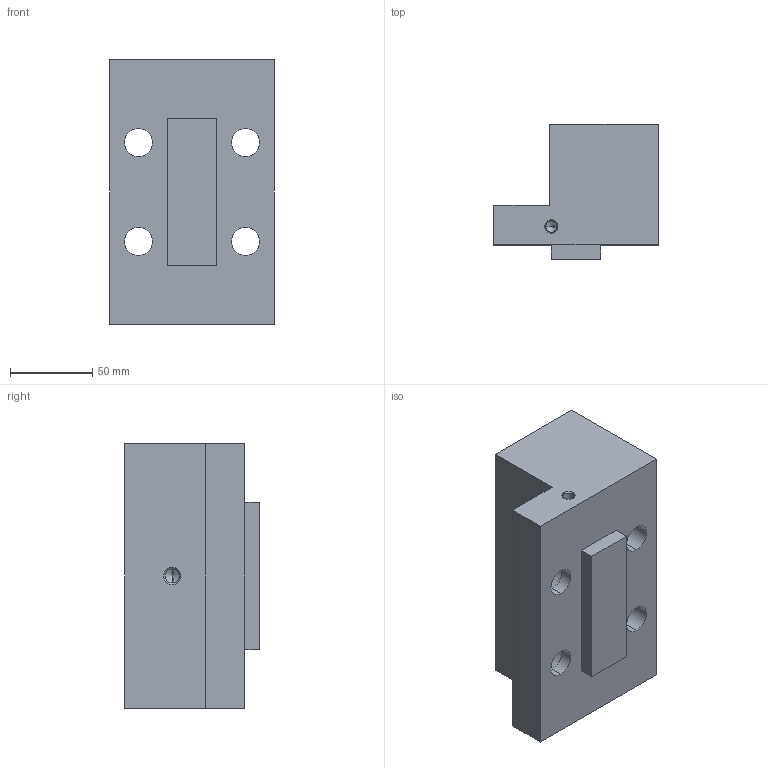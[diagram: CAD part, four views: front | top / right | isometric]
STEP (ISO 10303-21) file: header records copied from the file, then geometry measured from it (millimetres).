
FILE_DESCRIPTION (( 'STEP AP203' ), '1' );
FILE_NAME ('6921304011240.STEP', '2008-12-15T09:08:56', ( ' ' ), ( '' ), 'SwSTEP 2.0', 'SolidWorks 2008', '' );
FILE_SCHEMA (( 'CONFIG_CONTROL_DESIGN' ));
Length unit declared in the file: millimetre
Products named in the file (2): 6921304011240_Kundenmodell; 6921304011240
Assembly tree (1 placements, depth 2):
  6921304011240
    6921304011240_Kundenmodell
Bounding box: 100 x 81.9 x 160.4 mm (x, y, z)
Volume: 862711.5 mm3; surface area: 80139.3 mm2
Topology: 1 solids, 1 shells, 45 faces, 106 edges, 66 vertices
Faces by surface type: cylinder 20, plane 17, cone 8
Entity records: 1484 total; most frequent: DIRECTION 244, CARTESIAN_POINT 217, ORIENTED_EDGE 204, EDGE_CURVE 102, AXIS2_PLACEMENT_3D 93, VERTEX_POINT 66, EDGE_LOOP 60, LINE 58
